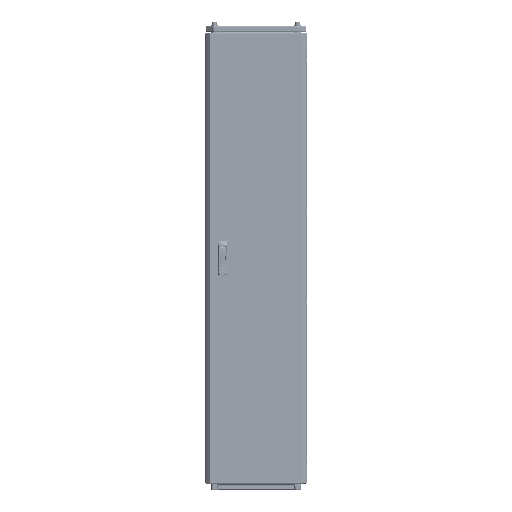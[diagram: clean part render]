
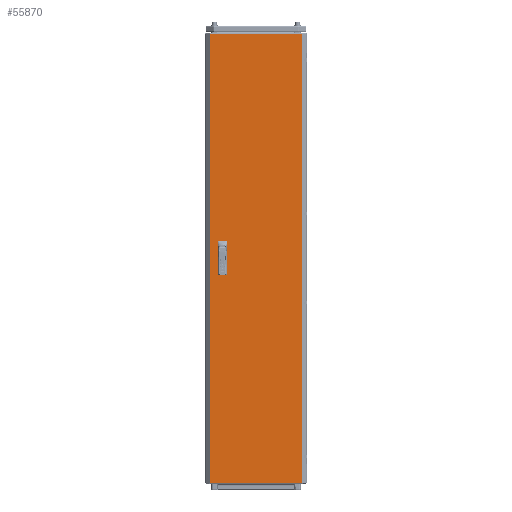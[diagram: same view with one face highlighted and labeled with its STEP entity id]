
A CAD part, top view. The second image highlights one B-rep face of the part: STEP entity #55870.
In plain terms, the highlighted planar face has unit normal (0, 0, 1).
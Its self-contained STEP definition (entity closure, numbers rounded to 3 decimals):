
#1309 = ORIENTED_EDGE ( 'NONE', *, *, #64927, .F. ) ;
#2735 = EDGE_CURVE ( 'NONE', #42328, #130383, #28290, .T. ) ;
#8943 = LINE ( 'NONE', #201773, #140817 ) ;
#13129 = FACE_OUTER_BOUND ( 'NONE', #230258, .T. ) ;
#16984 = EDGE_LOOP ( 'NONE', ( #236723, #114772, #169024, #61586 ) ) ;
#17079 = DIRECTION ( 'NONE',  ( -1., 0., 0. ) ) ;
#22909 = VECTOR ( 'NONE', #157558, 1000. ) ;
#23757 = DIRECTION ( 'NONE',  ( -1., 0., 0. ) ) ;
#26582 = VERTEX_POINT ( 'NONE', #49438 ) ;
#28290 = LINE ( 'NONE', #44521, #172253 ) ;
#29142 = VERTEX_POINT ( 'NONE', #101849 ) ;
#29718 = CARTESIAN_POINT ( 'NONE',  ( -142.5, -12.5, 0. ) ) ;
#32586 = VECTOR ( 'NONE', #123867, 1000. ) ;
#33313 = ORIENTED_EDGE ( 'NONE', *, *, #41109, .T. ) ;
#34006 = CARTESIAN_POINT ( 'NONE',  ( -177.875, -869.5, 0. ) ) ;
#35970 = VECTOR ( 'NONE', #17079, 1000. ) ;
#37502 = EDGE_CURVE ( 'NONE', #130383, #43196, #107332, .T. ) ;
#41109 = EDGE_CURVE ( 'NONE', #103625, #29142, #149097, .T. ) ;
#42328 = VERTEX_POINT ( 'NONE', #73529 ) ;
#43196 = VERTEX_POINT ( 'NONE', #119367 ) ;
#44521 = CARTESIAN_POINT ( 'NONE',  ( -142.5, -62.5, 0. ) ) ;
#45318 = ORIENTED_EDGE ( 'NONE', *, *, #229732, .T. ) ;
#45646 = VECTOR ( 'NONE', #125522, 1000. ) ;
#47953 = LINE ( 'NONE', #178645, #32586 ) ;
#49438 = CARTESIAN_POINT ( 'NONE',  ( -177.875, -869.5, 0. ) ) ;
#50775 = LINE ( 'NONE', #70662, #35970 ) ;
#54301 = VERTEX_POINT ( 'NONE', #60198 ) ;
#55870 = ADVANCED_FACE ( 'NONE', ( #187258, #128826, #13129 ), #147514, .F. ) ;
#60198 = CARTESIAN_POINT ( 'NONE',  ( -177.875, 869.5, 0. ) ) ;
#60918 = VERTEX_POINT ( 'NONE', #138263 ) ;
#61586 = ORIENTED_EDGE ( 'NONE', *, *, #61871, .F. ) ;
#61871 = EDGE_CURVE ( 'NONE', #216307, #42328, #47953, .T. ) ;
#63492 = ORIENTED_EDGE ( 'NONE', *, *, #100083, .F. ) ;
#64331 = VECTOR ( 'NONE', #99693, 1000. ) ;
#64927 = EDGE_CURVE ( 'NONE', #189211, #78056, #8943, .T. ) ;
#70662 = CARTESIAN_POINT ( 'NONE',  ( -177.875, 869.5, 0. ) ) ;
#73529 = CARTESIAN_POINT ( 'NONE',  ( -142.5, -62.5, 0. ) ) ;
#75310 = CARTESIAN_POINT ( 'NONE',  ( -142.5, 62.5, 0. ) ) ;
#78056 = VERTEX_POINT ( 'NONE', #231742 ) ;
#80799 = EDGE_LOOP ( 'NONE', ( #63492, #112584, #199615, #1309 ) ) ;
#84231 = LINE ( 'NONE', #89124, #239077 ) ;
#89124 = CARTESIAN_POINT ( 'NONE',  ( -142.5, 12.5, 0. ) ) ;
#93710 = DIRECTION ( 'NONE',  ( 0., -1., 0. ) ) ;
#99693 = DIRECTION ( 'NONE',  ( 0., 1., 0. ) ) ;
#100083 = EDGE_CURVE ( 'NONE', #145762, #189211, #115902, .T. ) ;
#101849 = CARTESIAN_POINT ( 'NONE',  ( 177.875, 869.5, 0. ) ) ;
#103625 = VERTEX_POINT ( 'NONE', #132937 ) ;
#107332 = LINE ( 'NONE', #170704, #64331 ) ;
#109309 = CARTESIAN_POINT ( 'NONE',  ( 177.875, -869.5, 0. ) ) ;
#112584 = ORIENTED_EDGE ( 'NONE', *, *, #186964, .F. ) ;
#114772 = ORIENTED_EDGE ( 'NONE', *, *, #37502, .F. ) ;
#115902 = LINE ( 'NONE', #118335, #238659 ) ;
#118335 = CARTESIAN_POINT ( 'NONE',  ( -142.5, 62.5, 0. ) ) ;
#118621 = EDGE_CURVE ( 'NONE', #26582, #103625, #120045, .T. ) ;
#119367 = CARTESIAN_POINT ( 'NONE',  ( -117.5, -12.5, 0. ) ) ;
#120045 = LINE ( 'NONE', #215890, #216741 ) ;
#123867 = DIRECTION ( 'NONE',  ( 0., -1., 0. ) ) ;
#125522 = DIRECTION ( 'NONE',  ( 0., 1., 0. ) ) ;
#128826 = FACE_BOUND ( 'NONE', #16984, .T. ) ;
#130383 = VERTEX_POINT ( 'NONE', #242488 ) ;
#132937 = CARTESIAN_POINT ( 'NONE',  ( 177.875, -869.5, 0. ) ) ;
#138263 = CARTESIAN_POINT ( 'NONE',  ( -117.5, 12.5, 0. ) ) ;
#140817 = VECTOR ( 'NONE', #140900, 1000. ) ;
#140900 = DIRECTION ( 'NONE',  ( 0., -1., 0. ) ) ;
#145762 = VERTEX_POINT ( 'NONE', #158234 ) ;
#146293 = DIRECTION ( 'NONE',  ( 0., 0., -1. ) ) ;
#147514 = PLANE ( 'NONE',  #233543 ) ;
#149097 = LINE ( 'NONE', #109309, #45646 ) ;
#156311 = LINE ( 'NONE', #216021, #164912 ) ;
#157558 = DIRECTION ( 'NONE',  ( -1., 0., 0. ) ) ;
#158234 = CARTESIAN_POINT ( 'NONE',  ( -117.5, 62.5, 0. ) ) ;
#163171 = ORIENTED_EDGE ( 'NONE', *, *, #118621, .T. ) ;
#164912 = VECTOR ( 'NONE', #176194, 1000. ) ;
#169024 = ORIENTED_EDGE ( 'NONE', *, *, #2735, .F. ) ;
#169828 = DIRECTION ( 'NONE',  ( -1., 0., 0. ) ) ;
#170704 = CARTESIAN_POINT ( 'NONE',  ( -117.5, -62.5, 0. ) ) ;
#172253 = VECTOR ( 'NONE', #218750, 1000. ) ;
#176194 = DIRECTION ( 'NONE',  ( 0., 1., 0. ) ) ;
#178645 = CARTESIAN_POINT ( 'NONE',  ( -142.5, -62.5, 0. ) ) ;
#186964 = EDGE_CURVE ( 'NONE', #60918, #145762, #156311, .T. ) ;
#187077 = LINE ( 'NONE', #34006, #200340 ) ;
#187258 = FACE_BOUND ( 'NONE', #80799, .T. ) ;
#189211 = VERTEX_POINT ( 'NONE', #75310 ) ;
#195949 = DIRECTION ( 'NONE',  ( 1., 0., 0. ) ) ;
#199615 = ORIENTED_EDGE ( 'NONE', *, *, #232391, .F. ) ;
#200340 = VECTOR ( 'NONE', #93710, 1000. ) ;
#201773 = CARTESIAN_POINT ( 'NONE',  ( -142.5, 12.5, 0. ) ) ;
#207470 = EDGE_CURVE ( 'NONE', #43196, #216307, #229798, .T. ) ;
#208398 = CARTESIAN_POINT ( 'NONE',  ( 0., 0., 0. ) ) ;
#211293 = ORIENTED_EDGE ( 'NONE', *, *, #217369, .T. ) ;
#215890 = CARTESIAN_POINT ( 'NONE',  ( -177.875, -869.5, 0. ) ) ;
#216021 = CARTESIAN_POINT ( 'NONE',  ( -117.5, 12.5, 0. ) ) ;
#216307 = VERTEX_POINT ( 'NONE', #29718 ) ;
#216741 = VECTOR ( 'NONE', #195949, 1000. ) ;
#217369 = EDGE_CURVE ( 'NONE', #54301, #26582, #187077, .T. ) ;
#218645 = DIRECTION ( 'NONE',  ( 1., 0., 0. ) ) ;
#218750 = DIRECTION ( 'NONE',  ( 1., 0., 0. ) ) ;
#229732 = EDGE_CURVE ( 'NONE', #29142, #54301, #50775, .T. ) ;
#229798 = LINE ( 'NONE', #232257, #22909 ) ;
#230258 = EDGE_LOOP ( 'NONE', ( #33313, #45318, #211293, #163171 ) ) ;
#231742 = CARTESIAN_POINT ( 'NONE',  ( -142.5, 12.5, 0. ) ) ;
#232257 = CARTESIAN_POINT ( 'NONE',  ( -142.5, -12.5, 0. ) ) ;
#232391 = EDGE_CURVE ( 'NONE', #78056, #60918, #84231, .T. ) ;
#233543 = AXIS2_PLACEMENT_3D ( 'NONE', #208398, #146293, #169828 ) ;
#236723 = ORIENTED_EDGE ( 'NONE', *, *, #207470, .F. ) ;
#238659 = VECTOR ( 'NONE', #23757, 1000. ) ;
#239077 = VECTOR ( 'NONE', #218645, 1000. ) ;
#242488 = CARTESIAN_POINT ( 'NONE',  ( -117.5, -62.5, 0. ) ) ;
